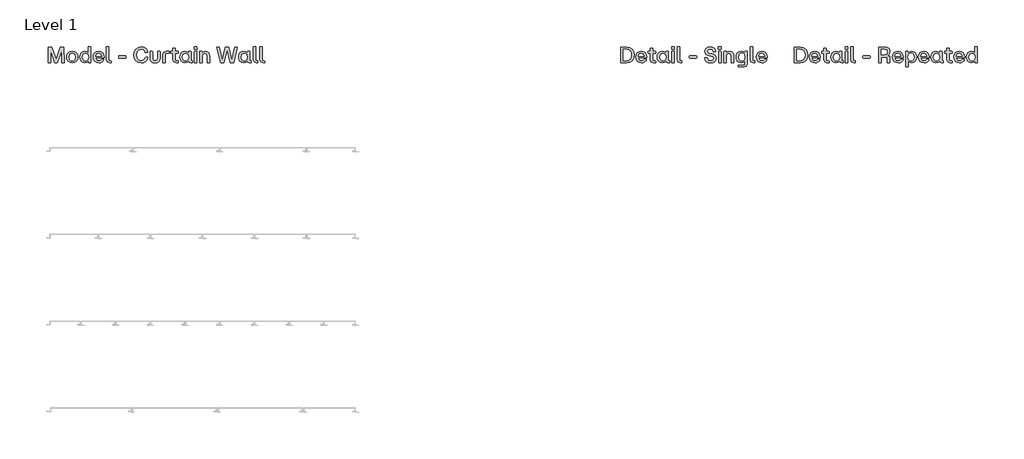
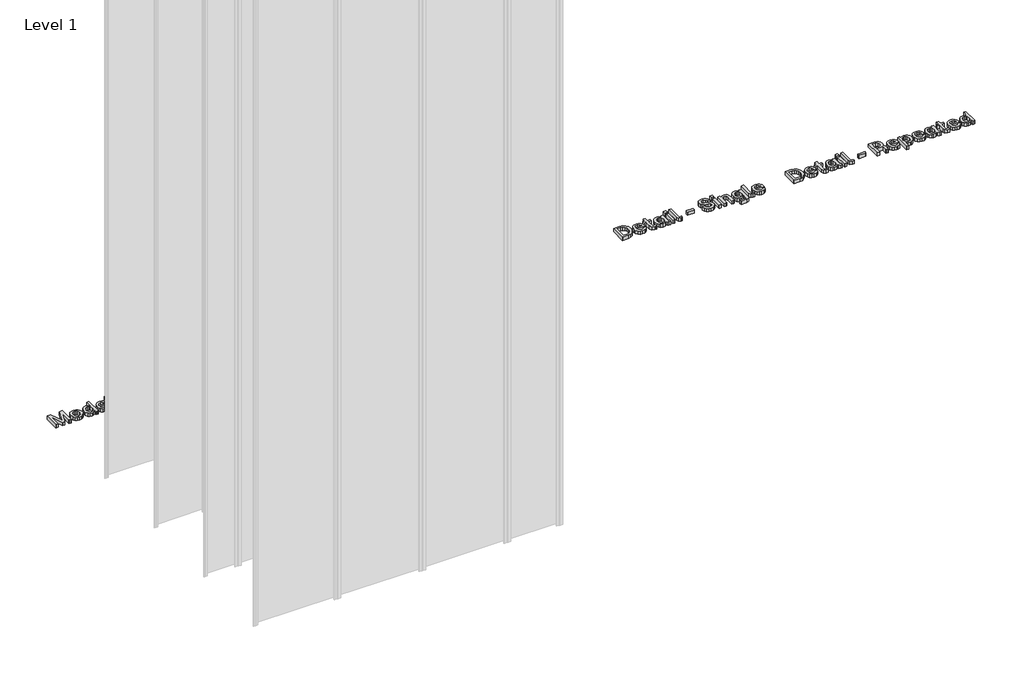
# One storey, part 55 of 64: 3 proxies.
"""IFC4 building model written with IfcOpenShell, lengths in millimetres."""

from ifc_helpers import new_model, si_unit, origin, origin_with_axes, place, context, project, spatial, polyline, outline, extrude, element, save

model = new_model("IFC4")

# Units and contexts
model_context = context("Model", 3, world=origin())
ifc_project = project(units=[si_unit("LENGTHUNIT", "METRE", prefix="MILLI")], contexts=[model_context])

# Site, building, storey
site = spatial("IfcSite", under=ifc_project)
building = spatial("IfcBuilding", under=site)
storey = spatial("IfcBuildingStorey", under=building, Name="Level 1", Elevation=0.0)

# Proxies
placement = place(None, origin())
element("IfcBuildingElementProxy", 1, Name="90mm", ObjectType="90mm", at=placement, inside=storey, context=model_context, shape_type="SweptSolid", body=[
    extrude(outline(polyline([(10.2926176, 6000.0), (8.9872124, 6001.2551973), (8.9872124, 6088.6922388), (28.5682898, 6089.997644), (30.0745265, 6088.9432783), (54.8521205, 6019.5308695), (79.8305461, 6088.9432783), (81.3367829, 6089.997644), (99.8634945, 6089.997644), (101.1688997, 6001.2551973), (99.8634945, 6000.0), (87.9391205, 6000.0), (86.6086114, 6001.2551973), (86.6086114, 6069.788968), (62.2075765, 6001.0041578), (60.7013398, 6000.0), (49.2037328, 6000.0), (47.6974961, 6001.0041578), (23.7985402, 6069.788968), (23.2964613, 6001.2551973), (21.9659522, 6000.0), (10.2926176, 6000.0)])), origin_with_axes(), (0.0, 0.0, 1.0), 20.0),
    extrude(outline(polyline([(148.1383814, 5999.2468816), (134.9117402, 6001.5533066), (124.452809, 6008.4725815), (117.6465018, 6019.1260683), (115.3777327, 6032.6351289), (117.6527778, 6046.2320533), (124.4779129, 6056.9985079), (134.9431201, 6064.0119226), (148.1383814, 6066.3497275), (161.4905423, 6064.0119226), (172.0247853, 6056.9985079), (178.8687484, 6046.2320533), (181.1500695, 6032.6351289), (178.8687484, 6019.1260683), (172.0247853, 6008.4725815), (161.4905423, 6001.5533066), (148.1383814, 5999.2468816)]), holes=[polyline([(129.8878131, 6032.6351289), (134.7454265, 6016.6062598), (140.522472, 6012.2475873), (148.1383814, 6010.7946965), (155.8358786, 6012.2538633), (161.7070638, 6016.6313638), (166.665093, 6032.6351289), (161.7321678, 6048.8271737), (155.8672585, 6053.251744), (148.1383814, 6054.7266008), (140.522472, 6053.251744), (134.7454265, 6048.8271737), (129.8878131, 6032.6351289)])]), origin_with_axes(), (0.0, 0.0, 1.0), 20.0),
    extrude(outline(polyline([(219.9607689, 5999.2468816), (208.011291, 6001.5156507), (198.7730391, 6008.3219579), (192.86106, 6018.9377888), (190.8904003, 6032.6351289), (192.86106, 6046.4674028), (198.7730391, 6057.1867875), (208.011291, 6064.0589925), (219.9607689, 6066.3497275), (231.872591, 6063.4627738), (240.8472515, 6055.555031), (241.4246422, 6091.2528413), (242.6798395, 6092.5833504), (254.353174, 6092.5833504), (255.6585792, 6001.2551973), (254.353174, 6000.0), (243.3074381, 6000.0), (242.0522408, 6001.2551973), (242.0522408, 6009.9160584), (232.4123258, 6002.1338354), (219.9607689, 5999.2468816)]), holes=[polyline([(205.4004807, 6032.6351289), (210.3585099, 6016.6313638), (216.2234191, 6012.2538633), (223.9020884, 6010.7946965), (231.4583759, 6012.2475873), (237.1569715, 6016.6062598), (241.9267211, 6032.6351289), (237.1193156, 6048.8271737), (231.411306, 6053.251744), (223.9020884, 6054.7266008), (216.2234191, 6053.251744), (210.3585099, 6048.8271737), (205.4004807, 6032.6351289)])]), origin_with_axes(), (0.0, 0.0, 1.0), 20.0),
    extrude(outline(polyline([(301.1469281, 5999.2468816), (287.5594177, 6001.5156507), (277.0220367, 6008.3219579), (270.2627994, 6018.9377888), (268.0097203, 6032.6351289), (270.2533854, 6046.4987827), (276.9843807, 6057.2118914), (287.5123478, 6064.0652685), (301.1469281, 6066.3497275), (313.6769348, 6064.0966484), (323.250952, 6057.3374111), (329.3229688, 6046.6870623), (331.3469743, 6032.7606486), (331.3469743, 6029.3214081), (330.0917771, 6027.990899), (282.6453204, 6027.990899), (288.1681884, 6015.3134066), (301.1469281, 6010.7946965), (311.5650654, 6013.0917075), (316.9624137, 6019.5308695), (318.3431307, 6020.5852352), (329.7152179, 6020.5852352), (327.6817983, 6011.2685335), (321.3305002, 6004.8074055), (312.3432877, 6000.6370126), (301.1469281, 5999.2468816)]), holes=[polyline([(282.7708401, 6038.4090363), (317.3389729, 6038.4090363), (312.5817752, 6050.3710663), (301.1469281, 6054.7266008), (288.3815719, 6050.5844498), (282.7708401, 6038.4090363)])]), origin_with_axes(), (0.0, 0.0, 1.0), 20.0),
    extrude(outline(polyline([(362.7771139, 6000.0), (348.9197361, 6004.7697496), (344.1499865, 6018.6522314), (344.1499865, 6091.2528413), (357.1287262, 6092.5833504), (358.3839235, 6091.2528413), (358.3839235, 6011.2967754), (370.3836093, 6011.2967754), (371.6388066, 6010.0415781), (371.6388066, 6001.2551973), (370.3836093, 6000.0), (362.7771139, 6000.0)])), origin_with_axes(), (0.0, 0.0, 1.0), 20.0),
    extrude(outline(polyline([(416.4242451, 6027.112261), (415.1690478, 6028.4427701), (415.1690478, 6038.4090363), (416.4242451, 6039.7395454), (455.034113, 6039.7395454), (456.2893102, 6038.4090363), (456.2893102, 6028.4427701), (455.034113, 6027.112261), (416.4242451, 6027.112261)])), origin_with_axes(), (0.0, 0.0, 1.0), 20.0),
    extrude(outline(polyline([(545.2827964, 5999.2468816), (527.2707156, 6002.3315289), (513.4007858, 6011.5854708), (504.5516451, 6026.1112411), (501.6019315, 6045.011374), (504.5767491, 6063.5945695), (513.5012016, 6078.1736857), (527.3962354, 6087.6064932), (545.2827964, 6090.7507624), (559.231176, 6088.6734109), (570.8009568, 6082.4413564), (579.1197767, 6072.7575095), (583.3152736, 6060.3247806), (570.1357023, 6058.8687518), (568.7047774, 6059.9984293), (560.8409665, 6073.6110437), (545.2827964, 6078.1485818), (533.3584224, 6075.9268826), (524.2958981, 6069.2617852), (518.5721986, 6058.755784), (516.6642987, 6045.011374), (518.5627846, 6031.0535804), (524.2582422, 6020.5601312), (533.3113525, 6013.9891735), (545.2827964, 6011.7988543), (561.1484899, 6016.2736326), (569.5834155, 6029.6979673), (571.0143404, 6030.8778528), (582.9387144, 6030.8778528), (579.7662033, 6017.1208907), (571.3030357, 6007.5311836), (559.5449753, 6001.3179571), (545.2827964, 5999.2468816)])), origin_with_axes(), (0.0, 0.0, 1.0), 20.0),
    extrude(outline(polyline([(625.364382, 5999.2468816), (612.8437893, 6001.0637797), (603.9005087, 6006.5144738), (598.5345404, 6015.598964), (596.7458843, 6028.3172503), (596.7458843, 6064.2661), (598.0010816, 6065.5212973), (609.6744162, 6065.5212973), (610.9798213, 6064.2661), (610.9798213, 6026.2336229), (614.6826533, 6014.7485679), (625.364382, 6010.7946965), (636.2845982, 6014.6544281), (639.9246703, 6026.2336229), (639.9246703, 6064.2661), (641.1798676, 6065.5212973), (652.90341, 6065.5212973), (654.1586073, 6064.2661), (654.1586073, 6028.3172503), (652.3589682, 6015.598964), (646.960051, 6006.5144738), (637.9618556, 6001.0637797), (625.364382, 5999.2468816)])), origin_with_axes(), (0.0, 0.0, 1.0), 20.0),
    extrude(outline(polyline([(670.9280428, 6000.0), (669.6728455, 6001.2551973), (669.6728455, 6046.9443778), (674.4425951, 6060.7892036), (688.2999729, 6065.5212973), (706.5756451, 6065.5212973), (707.8308424, 6064.2661), (707.8308424, 6054.7266008), (706.5756451, 6053.4714035), (683.9067825, 6053.4714035), (683.9067825, 6001.2551973), (682.6515852, 6000.0), (670.9280428, 6000.0)])), origin_with_axes(), (0.0, 0.0, 1.0), 20.0),
    extrude(outline(polyline([(746.0892551, 6000.0), (732.2067733, 6004.7697496), (727.4370237, 6018.6522314), (727.4370237, 6054.2245219), (716.265768, 6054.2245219), (714.9603629, 6064.2661), (716.265768, 6065.5212973), (727.4370237, 6065.5212973), (727.4370237, 6083.54593), (728.692221, 6084.8513352), (740.4408674, 6084.8513352), (741.6960646, 6083.54593), (741.6960646, 6065.5212973), (757.5115502, 6065.5212973), (758.8169553, 6064.2661), (758.8169553, 6055.555031), (741.6960646, 6054.2245219), (741.6960646, 6011.2967754), (757.5115502, 6011.2967754), (758.8169553, 6010.0415781), (758.8169553, 6001.2551973), (757.5115502, 6000.0), (746.0892551, 6000.0)])), origin_with_axes(), (0.0, 0.0, 1.0), 20.0),
    extrude(outline(polyline([(796.7490167, 5999.2468816), (784.7995388, 6001.5156507), (775.5612869, 6008.3219579), (769.6493078, 6018.9377888), (767.678648, 6032.6351289), (769.6493078, 6046.4674028), (775.5612869, 6057.1867875), (784.7995388, 6064.0589925), (796.7490167, 6066.3497275), (808.6608388, 6063.4627738), (817.6354992, 6055.555031), (818.21289, 6064.2661), (819.4680873, 6065.5212973), (831.1414218, 6065.5212973), (832.446827, 6064.2661), (832.446827, 6011.2967754), (839.5512435, 6011.2967754), (840.8064408, 6010.0415781), (840.8064408, 6001.2551973), (839.5512435, 6000.0), (830.0117443, 6000.0), (821.6333025, 6002.3534949), (818.8404886, 6009.4139795), (809.2005736, 6002.1338354), (796.7490167, 5999.2468816)]), holes=[polyline([(782.1887284, 6032.6351289), (787.1467576, 6016.6313638), (793.0116669, 6012.2538633), (800.6903361, 6010.7946965), (808.2466237, 6012.2475873), (813.9452193, 6016.6062598), (818.7149689, 6032.6351289), (813.9075634, 6048.8271737), (808.1995538, 6053.251744), (800.6903361, 6054.7266008), (793.0116669, 6053.251744), (787.1467576, 6048.8271737), (782.1887284, 6032.6351289)])]), origin_with_axes(), (0.0, 0.0, 1.0), 20.0),
    extrude(outline(polyline([(853.1575819, 6000.0), (851.8521767, 6001.2551973), (851.8521767, 6064.2661), (853.1575819, 6065.5212973), (864.8309165, 6065.5212973), (866.0861137, 6064.2661), (866.0861137, 6001.2551973), (864.8309165, 6000.0), (853.1575819, 6000.0)])), origin_with_axes(), (0.0, 0.0, 1.0), 20.0),
    extrude(outline(polyline([(850.8480189, 6078.1485818), (850.8480189, 6092.0059596), (852.1032162, 6093.3364687), (865.960594, 6093.3364687), (867.2911031, 6078.1485818), (865.960594, 6076.8933845), (852.1032162, 6076.8933845), (850.8480189, 6078.1485818)])), origin_with_axes(), (0.0, 0.0, 1.0), 20.0),
    extrude(outline(polyline([(883.6839794, 6000.0), (882.3785742, 6001.2551973), (882.3785742, 6064.2661), (883.6839794, 6065.5212973), (894.7297153, 6065.5212973), (895.9849126, 6064.2661), (895.9849126, 6055.555031), (905.2796484, 6063.6510534), (917.1977464, 6066.3497275), (927.1232188, 6064.4669316), (934.4065009, 6058.8185439), (938.8781412, 6049.5426361), (940.3686879, 6036.7772799), (940.3686879, 6001.2551973), (939.0381788, 6000.0), (927.3648443, 6000.0), (926.0594391, 6001.2551973), (926.0594391, 6036.7772799), (922.5448868, 6050.057267), (911.436391, 6054.2245219), (900.2274794, 6049.9945071), (896.6125112, 6036.7772799), (896.6125112, 6001.2551973), (895.357314, 6000.0), (883.6839794, 6000.0)])), origin_with_axes(), (0.0, 0.0, 1.0), 20.0),
    extrude(outline(polyline([(1003.7561499, 6000.0), (1002.3754329, 6001.1296775), (979.7065703, 6088.5667191), (993.6392599, 6089.997644), (995.0199769, 6088.8177586), (1011.8396203, 6014.3845607), (1030.4918517, 6088.8177586), (1031.9227765, 6089.997644), (1048.3658607, 6089.997644), (1049.8218896, 6088.8177586), (1067.7712105, 6014.3845607), (1085.1431406, 6088.8177586), (1086.5238576, 6089.997644), (1099.2766618, 6089.997644), (1077.8127886, 6001.1296775), (1076.4320716, 6000.0), (1059.9136756, 6000.0), (1058.5329586, 6001.1296775), (1040.4079101, 6073.5043519), (1021.630159, 6001.1296775), (1020.249442, 6000.0), (1003.7561499, 6000.0)])), origin_with_axes(), (0.0, 0.0, 1.0), 20.0),
    extrude(outline(polyline([(1135.7526944, 5999.2468816), (1123.8032164, 6001.5156507), (1114.5649646, 6008.3219579), (1108.6529854, 6018.9377888), (1106.6823257, 6032.6351289), (1108.6529854, 6046.4674028), (1114.5649646, 6057.1867875), (1123.8032164, 6064.0589925), (1135.7526944, 6066.3497275), (1147.6645165, 6063.4627738), (1156.6391769, 6055.555031), (1157.2165677, 6064.2661), (1158.4717649, 6065.5212973), (1170.1450995, 6065.5212973), (1171.4505047, 6064.2661), (1171.4505047, 6011.2967754), (1178.5549212, 6011.2967754), (1179.8101185, 6010.0415781), (1179.8101185, 6001.2551973), (1178.5549212, 6000.0), (1169.015422, 6000.0), (1160.6369802, 6002.3534949), (1157.8441663, 6009.4139795), (1148.2042513, 6002.1338354), (1135.7526944, 5999.2468816)]), holes=[polyline([(1121.1924061, 6032.6351289), (1126.1504353, 6016.6313638), (1132.0153445, 6012.2538633), (1139.6940138, 6010.7946965), (1147.2503014, 6012.2475873), (1152.948897, 6016.6062598), (1157.7186466, 6032.6351289), (1152.911241, 6048.8271737), (1147.2032315, 6053.251744), (1139.6940138, 6054.7266008), (1132.0153445, 6053.251744), (1126.1504353, 6048.8271737), (1121.1924061, 6032.6351289)])]), origin_with_axes(), (0.0, 0.0, 1.0), 20.0),
    extrude(outline(polyline([(1209.4829818, 6000.0), (1195.625604, 6004.7697496), (1190.8558544, 6018.6522314), (1190.8558544, 6091.2528413), (1203.8345941, 6092.5833504), (1205.0897914, 6091.2528413), (1205.0897914, 6011.2967754), (1217.0894773, 6011.2967754), (1218.3446745, 6010.0415781), (1218.3446745, 6001.2551973), (1217.0894773, 6000.0), (1209.4829818, 6000.0)])), origin_with_axes(), (0.0, 0.0, 1.0), 20.0),
    extrude(outline(polyline([(1248.0426418, 6000.0), (1234.185264, 6004.7697496), (1229.4155144, 6018.6522314), (1229.4155144, 6091.2528413), (1242.3942541, 6092.5833504), (1243.6494514, 6091.2528413), (1243.6494514, 6011.2967754), (1255.6491373, 6011.2967754), (1256.9043345, 6010.0415781), (1256.9043345, 6001.2551973), (1255.6491373, 6000.0), (1248.0426418, 6000.0)])), origin_with_axes(), (0.0, 0.0, 1.0), 20.0),
])
element("IfcBuildingElementProxy", 2, Name="90mm", ObjectType="90mm", at=placement, inside=storey, context=model_context, shape_type="SweptSolid", body=[
    extrude(outline(polyline([(3310.2926176, 6000.0), (3308.9872124, 6001.2551973), (3308.9872124, 6088.6922388), (3342.5511873, 6089.997644), (3360.5475781, 6086.9945845), (3374.1193986, 6077.9854062), (3382.63905, 6063.6416394), (3385.4789338, 6044.6348148), (3382.648464, 6025.7974418), (3374.1570545, 6011.7109905), (3360.594648, 6002.9277476), (3342.5511873, 6000.0), (3310.2926176, 6000.0)]), holes=[polyline([(3323.7985402, 6012.6272845), (3341.6725492, 6012.6272845), (3353.8950326, 6014.688946), (3362.9481429, 6020.8739305), (3368.5494607, 6030.9374746), (3370.4165666, 6044.6348148), (3368.5431847, 6058.4890546), (3362.923039, 6068.8224661), (3353.8636527, 6075.2522141), (3341.6725492, 6077.3954634), (3323.7985402, 6077.3954634), (3323.7985402, 6012.6272845)])]), origin_with_axes(), (0.0, 0.0, 1.0), 20.0),
    extrude(outline(polyline([(3427.628458, 5999.2468816), (3414.0409476, 6001.5156507), (3403.5035666, 6008.3219579), (3396.7443293, 6018.9377888), (3394.4912502, 6032.6351289), (3396.7349153, 6046.4987827), (3403.4659107, 6057.2118914), (3413.9938777, 6064.0652685), (3427.628458, 6066.3497275), (3440.1584647, 6064.0966484), (3449.7324819, 6057.3374111), (3455.8044987, 6046.6870623), (3457.8285043, 6032.7606486), (3457.8285043, 6029.3214081), (3456.573307, 6027.990899), (3409.1268503, 6027.990899), (3414.6497183, 6015.3134066), (3427.628458, 6010.7946965), (3438.0465953, 6013.0917075), (3443.4439436, 6019.5308695), (3444.8246606, 6020.5852352), (3456.1967478, 6020.5852352), (3454.1633282, 6011.2685335), (3447.8120301, 6004.8074055), (3438.8248176, 6000.6370126), (3427.628458, 5999.2468816)]), holes=[polyline([(3409.2523701, 6038.4090363), (3443.8205028, 6038.4090363), (3439.0633051, 6050.3710663), (3427.628458, 6054.7266008), (3414.8631018, 6050.5844498), (3409.2523701, 6038.4090363)])]), origin_with_axes(), (0.0, 0.0, 1.0), 20.0),
    extrude(outline(polyline([(3496.6140998, 6000.0), (3482.731618, 6004.7697496), (3477.9618684, 6018.6522314), (3477.9618684, 6054.2245219), (3466.7906127, 6054.2245219), (3465.4852076, 6064.2661), (3466.7906127, 6065.5212973), (3477.9618684, 6065.5212973), (3477.9618684, 6083.54593), (3479.2170657, 6084.8513352), (3490.9657121, 6084.8513352), (3492.2209094, 6083.54593), (3492.2209094, 6065.5212973), (3508.0363949, 6065.5212973), (3509.3418001, 6064.2661), (3509.3418001, 6055.555031), (3492.2209094, 6054.2245219), (3492.2209094, 6011.2967754), (3508.0363949, 6011.2967754), (3509.3418001, 6010.0415781), (3509.3418001, 6001.2551973), (3508.0363949, 6000.0), (3496.6140998, 6000.0)])), origin_with_axes(), (0.0, 0.0, 1.0), 20.0),
    extrude(outline(polyline([(3547.2738615, 5999.2468816), (3535.3243835, 6001.5156507), (3526.0861316, 6008.3219579), (3520.1741525, 6018.9377888), (3518.2034928, 6032.6351289), (3520.1741525, 6046.4674028), (3526.0861316, 6057.1867875), (3535.3243835, 6064.0589925), (3547.2738615, 6066.3497275), (3559.1856835, 6063.4627738), (3568.160344, 6055.555031), (3568.7377347, 6064.2661), (3569.992932, 6065.5212973), (3581.6662665, 6065.5212973), (3582.9716717, 6064.2661), (3582.9716717, 6011.2967754), (3590.0760882, 6011.2967754), (3591.3312855, 6010.0415781), (3591.3312855, 6001.2551973), (3590.0760882, 6000.0), (3580.536589, 6000.0), (3572.1581473, 6002.3534949), (3569.3653333, 6009.4139795), (3559.7254183, 6002.1338354), (3547.2738615, 5999.2468816)]), holes=[polyline([(3532.7135732, 6032.6351289), (3537.6716024, 6016.6313638), (3543.5365116, 6012.2538633), (3551.2151809, 6010.7946965), (3558.7714684, 6012.2475873), (3564.470064, 6016.6062598), (3569.2398136, 6032.6351289), (3564.4324081, 6048.8271737), (3558.7243985, 6053.251744), (3551.2151809, 6054.7266008), (3543.5365116, 6053.251744), (3537.6716024, 6048.8271737), (3532.7135732, 6032.6351289)])]), origin_with_axes(), (0.0, 0.0, 1.0), 20.0),
    extrude(outline(polyline([(3603.6824266, 6000.0), (3602.3770214, 6001.2551973), (3602.3770214, 6064.2661), (3603.6824266, 6065.5212973), (3615.3557612, 6065.5212973), (3616.6109584, 6064.2661), (3616.6109584, 6001.2551973), (3615.3557612, 6000.0), (3603.6824266, 6000.0)])), origin_with_axes(), (0.0, 0.0, 1.0), 20.0),
    extrude(outline(polyline([(3601.3728636, 6078.1485818), (3601.3728636, 6092.0059596), (3602.6280609, 6093.3364687), (3616.4854387, 6093.3364687), (3617.8159478, 6078.1485818), (3616.4854387, 6076.8933845), (3602.6280609, 6076.8933845), (3601.3728636, 6078.1485818)])), origin_with_axes(), (0.0, 0.0, 1.0), 20.0),
    extrude(outline(polyline([(3651.5305464, 6000.0), (3637.6731686, 6004.7697496), (3632.903419, 6018.6522314), (3632.903419, 6091.2528413), (3645.8821587, 6092.5833504), (3647.137356, 6091.2528413), (3647.137356, 6011.2967754), (3659.1370418, 6011.2967754), (3660.3922391, 6010.0415781), (3660.3922391, 6001.2551973), (3659.1370418, 6000.0), (3651.5305464, 6000.0)])), origin_with_axes(), (0.0, 0.0, 1.0), 20.0),
    extrude(outline(polyline([(3705.1776775, 6027.112261), (3703.9224803, 6028.4427701), (3703.9224803, 6038.4090363), (3705.1776775, 6039.7395454), (3743.7875455, 6039.7395454), (3745.0427427, 6038.4090363), (3745.0427427, 6028.4427701), (3743.7875455, 6027.112261), (3705.1776775, 6027.112261)])), origin_with_axes(), (0.0, 0.0, 1.0), 20.0),
    extrude(outline(polyline([(3826.3293177, 5999.2468816), (3812.5598037, 6001.0982976), (3801.8780749, 6006.6525455), (3794.6167588, 6015.627206), (3791.1084824, 6027.7398596), (3804.3633655, 6029.1958884), (3805.6687707, 6027.990899), (3811.8568932, 6015.4389264), (3826.3293177, 6011.5478148), (3838.8436344, 6015.1251271), (3843.3246887, 6025.0537374), (3840.2243514, 6033.3003835), (3829.84387, 6037.4048785), (3817.9697039, 6039.488506), (3806.9647619, 6042.7426049), (3799.104089, 6048.0615033), (3794.3876853, 6055.4452012), (3792.8155507, 6064.8936987), (3794.8301423, 6075.7354651), (3800.8739171, 6083.9099372), (3810.5263841, 6089.0405561), (3823.3670521, 6090.7507624), (3836.1010284, 6089.0185901), (3846.0359148, 6083.8220734), (3852.826532, 6075.4687356), (3856.1277008, 6064.2661), (3842.9481295, 6062.8351751), (3841.5172046, 6064.2661), (3835.7056413, 6074.9729327), (3823.3670521, 6078.3996213), (3811.6058538, 6075.2616281), (3807.5515666, 6066.098688), (3811.1665347, 6057.400171), (3822.4884141, 6052.8438049), (3834.2872684, 6050.7852814), (3845.1070688, 6047.6159083), (3852.4625248, 6042.5260834), (3856.6799876, 6035.1957313), (3858.0858085, 6025.3047769), (3855.9739391, 6014.3908367), (3849.6383309, 6006.1504666), (3839.5873388, 6000.9727779), (3826.3293177, 5999.2468816)])), origin_with_axes(), (0.0, 0.0, 1.0), 20.0),
    extrude(outline(polyline([(3871.2904838, 6078.1485818), (3871.2904838, 6092.0059596), (3872.545681, 6093.3364687), (3886.4030589, 6093.3364687), (3887.733568, 6078.1485818), (3886.4030589, 6076.8933845), (3872.545681, 6076.8933845), (3871.2904838, 6078.1485818)])), origin_with_axes(), (0.0, 0.0, 1.0), 20.0),
    extrude(outline(polyline([(3873.6000467, 6000.0), (3872.2946416, 6001.2551973), (3872.2946416, 6064.2661), (3873.6000467, 6065.5212973), (3885.2733813, 6065.5212973), (3886.5285786, 6064.2661), (3886.5285786, 6001.2551973), (3885.2733813, 6000.0), (3873.6000467, 6000.0)])), origin_with_axes(), (0.0, 0.0, 1.0), 20.0),
    extrude(outline(polyline([(3904.1264443, 6000.0), (3902.8210391, 6001.2551973), (3902.8210391, 6064.2661), (3904.1264443, 6065.5212973), (3915.1721802, 6065.5212973), (3916.4273775, 6064.2661), (3916.4273775, 6055.555031), (3925.7221132, 6063.6510534), (3937.6402113, 6066.3497275), (3947.5656836, 6064.4669316), (3954.8489658, 6058.8185439), (3959.320606, 6049.5426361), (3960.8111528, 6036.7772799), (3960.8111528, 6001.2551973), (3959.4806437, 6000.0), (3947.8073091, 6000.0), (3946.501904, 6001.2551973), (3946.501904, 6036.7772799), (3942.9873516, 6050.057267), (3931.8788558, 6054.2245219), (3920.6699442, 6049.9945071), (3917.0549761, 6036.7772799), (3917.0549761, 6001.2551973), (3915.7997788, 6000.0), (3904.1264443, 6000.0)])), origin_with_axes(), (0.0, 0.0, 1.0), 20.0),
    extrude(outline(polyline([(3986.5175928, 5975.5989651), (3985.1870837, 5976.8541624), (3985.1870837, 5985.6405433), (3986.5175928, 5986.8957405), (4023.4203924, 5986.8957405), (4023.4203924, 6010.0415781), (4013.8683412, 6002.1338354), (4001.9565192, 5999.2468816), (3990.0070412, 6001.5313407), (3980.7687893, 6008.3847177), (3974.8568102, 6019.0789984), (3972.8861505, 6032.8861684), (3974.8568102, 6046.6086125), (3980.7687893, 6057.2495473), (3990.0070412, 6064.0746824), (4001.9565192, 6066.3497275), (4014.4080761, 6063.4627738), (4023.5459122, 6055.6805507), (4024.0479911, 6064.2661), (4025.3031883, 6065.5212973), (4036.3489243, 6065.5212973), (4037.6543294, 6064.2661), (4037.6543294, 5993.5984939), (4033.0100996, 5980.2055391), (4019.6548006, 5975.5989651), (3986.5175928, 5975.5989651)]), holes=[polyline([(3987.3962309, 6032.8861684), (3992.3542601, 6016.6941236), (3998.2191693, 6012.2695533), (4005.8978386, 6010.7946965), (4013.4070562, 6012.2695533), (4019.1150658, 6016.6941236), (4023.9224713, 6032.8861684), (4019.1527217, 6048.9275894), (4013.4541261, 6053.276848), (4005.8978386, 6054.7266008), (3998.2191693, 6053.267434), (3992.3542601, 6048.8899335), (3987.3962309, 6032.8861684)])]), origin_with_axes(), (0.0, 0.0, 1.0), 20.0),
    extrude(outline(polyline([(4072.4735016, 6000.0), (4058.6161238, 6004.7697496), (4053.8463742, 6018.6522314), (4053.8463742, 6091.2528413), (4066.8251139, 6092.5833504), (4068.0803112, 6091.2528413), (4068.0803112, 6011.2967754), (4080.079997, 6011.2967754), (4081.3351943, 6010.0415781), (4081.3351943, 6001.2551973), (4080.079997, 6000.0), (4072.4735016, 6000.0)])), origin_with_axes(), (0.0, 0.0, 1.0), 20.0),
    extrude(outline(polyline([(4121.7023384, 5999.2468816), (4108.114828, 6001.5156507), (4097.5774469, 6008.3219579), (4090.8182097, 6018.9377888), (4088.5651306, 6032.6351289), (4090.8087957, 6046.4987827), (4097.539791, 6057.2118914), (4108.0677581, 6064.0652685), (4121.7023384, 6066.3497275), (4134.2323451, 6064.0966484), (4143.8063622, 6057.3374111), (4149.878379, 6046.6870623), (4151.9023846, 6032.7606486), (4151.9023846, 6029.3214081), (4150.6471873, 6027.990899), (4103.2007307, 6027.990899), (4108.7235987, 6015.3134066), (4121.7023384, 6010.7946965), (4132.1204757, 6013.0917075), (4137.5178239, 6019.5308695), (4138.8985409, 6020.5852352), (4150.2706282, 6020.5852352), (4148.2372086, 6011.2685335), (4141.8859104, 6004.8074055), (4132.898698, 6000.6370126), (4121.7023384, 5999.2468816)]), holes=[polyline([(4103.3262504, 6038.4090363), (4137.8943831, 6038.4090363), (4133.1371855, 6050.3710663), (4121.7023384, 6054.7266008), (4108.9369822, 6050.5844498), (4103.3262504, 6038.4090363)])]), origin_with_axes(), (0.0, 0.0, 1.0), 20.0),
])
element("IfcBuildingElementProxy", 3, Name="90mm", ObjectType="90mm", at=placement, inside=storey, context=model_context, shape_type="SweptSolid", body=[
    extrude(outline(polyline([(4310.2926176, 6000.0), (4308.9872124, 6001.2551973), (4308.9872124, 6088.6922388), (4342.5511873, 6089.997644), (4360.5475781, 6086.9945845), (4374.1193986, 6077.9854062), (4382.63905, 6063.6416394), (4385.4789338, 6044.6348148), (4382.648464, 6025.7974418), (4374.1570545, 6011.7109905), (4360.594648, 6002.9277476), (4342.5511873, 6000.0), (4310.2926176, 6000.0)]), holes=[polyline([(4323.7985402, 6012.6272845), (4341.6725492, 6012.6272845), (4353.8950326, 6014.688946), (4362.9481429, 6020.8739305), (4368.5494607, 6030.9374746), (4370.4165666, 6044.6348148), (4368.5431847, 6058.4890546), (4362.923039, 6068.8224661), (4353.8636527, 6075.2522141), (4341.6725492, 6077.3954634), (4323.7985402, 6077.3954634), (4323.7985402, 6012.6272845)])]), origin_with_axes(), (0.0, 0.0, 1.0), 20.0),
    extrude(outline(polyline([(4427.628458, 5999.2468816), (4414.0409476, 6001.5156507), (4403.5035666, 6008.3219579), (4396.7443293, 6018.9377888), (4394.4912502, 6032.6351289), (4396.7349153, 6046.4987827), (4403.4659107, 6057.2118914), (4413.9938777, 6064.0652685), (4427.628458, 6066.3497275), (4440.1584647, 6064.0966484), (4449.7324819, 6057.3374111), (4455.8044987, 6046.6870623), (4457.8285043, 6032.7606486), (4457.8285043, 6029.3214081), (4456.573307, 6027.990899), (4409.1268503, 6027.990899), (4414.6497183, 6015.3134066), (4427.628458, 6010.7946965), (4438.0465953, 6013.0917075), (4443.4439436, 6019.5308695), (4444.8246606, 6020.5852352), (4456.1967478, 6020.5852352), (4454.1633282, 6011.2685335), (4447.8120301, 6004.8074055), (4438.8248176, 6000.6370126), (4427.628458, 5999.2468816)]), holes=[polyline([(4409.2523701, 6038.4090363), (4443.8205028, 6038.4090363), (4439.0633051, 6050.3710663), (4427.628458, 6054.7266008), (4414.8631018, 6050.5844498), (4409.2523701, 6038.4090363)])]), origin_with_axes(), (0.0, 0.0, 1.0), 20.0),
    extrude(outline(polyline([(4496.6140998, 6000.0), (4482.731618, 6004.7697496), (4477.9618684, 6018.6522314), (4477.9618684, 6054.2245219), (4466.7906127, 6054.2245219), (4465.4852076, 6064.2661), (4466.7906127, 6065.5212973), (4477.9618684, 6065.5212973), (4477.9618684, 6083.54593), (4479.2170657, 6084.8513352), (4490.9657121, 6084.8513352), (4492.2209094, 6083.54593), (4492.2209094, 6065.5212973), (4508.0363949, 6065.5212973), (4509.3418001, 6064.2661), (4509.3418001, 6055.555031), (4492.2209094, 6054.2245219), (4492.2209094, 6011.2967754), (4508.0363949, 6011.2967754), (4509.3418001, 6010.0415781), (4509.3418001, 6001.2551973), (4508.0363949, 6000.0), (4496.6140998, 6000.0)])), origin_with_axes(), (0.0, 0.0, 1.0), 20.0),
    extrude(outline(polyline([(4547.2738615, 5999.2468816), (4535.3243835, 6001.5156507), (4526.0861316, 6008.3219579), (4520.1741525, 6018.9377888), (4518.2034928, 6032.6351289), (4520.1741525, 6046.4674028), (4526.0861316, 6057.1867875), (4535.3243835, 6064.0589925), (4547.2738615, 6066.3497275), (4559.1856835, 6063.4627738), (4568.160344, 6055.555031), (4568.7377347, 6064.2661), (4569.992932, 6065.5212973), (4581.6662665, 6065.5212973), (4582.9716717, 6064.2661), (4582.9716717, 6011.2967754), (4590.0760882, 6011.2967754), (4591.3312855, 6010.0415781), (4591.3312855, 6001.2551973), (4590.0760882, 6000.0), (4580.536589, 6000.0), (4572.1581473, 6002.3534949), (4569.3653333, 6009.4139795), (4559.7254183, 6002.1338354), (4547.2738615, 5999.2468816)]), holes=[polyline([(4532.7135732, 6032.6351289), (4537.6716024, 6016.6313638), (4543.5365116, 6012.2538633), (4551.2151809, 6010.7946965), (4558.7714684, 6012.2475873), (4564.470064, 6016.6062598), (4569.2398136, 6032.6351289), (4564.4324081, 6048.8271737), (4558.7243985, 6053.251744), (4551.2151809, 6054.7266008), (4543.5365116, 6053.251744), (4537.6716024, 6048.8271737), (4532.7135732, 6032.6351289)])]), origin_with_axes(), (0.0, 0.0, 1.0), 20.0),
    extrude(outline(polyline([(4603.6824266, 6000.0), (4602.3770214, 6001.2551973), (4602.3770214, 6064.2661), (4603.6824266, 6065.5212973), (4615.3557612, 6065.5212973), (4616.6109584, 6064.2661), (4616.6109584, 6001.2551973), (4615.3557612, 6000.0), (4603.6824266, 6000.0)])), origin_with_axes(), (0.0, 0.0, 1.0), 20.0),
    extrude(outline(polyline([(4601.3728636, 6078.1485818), (4601.3728636, 6092.0059596), (4602.6280609, 6093.3364687), (4616.4854387, 6093.3364687), (4617.8159478, 6078.1485818), (4616.4854387, 6076.8933845), (4602.6280609, 6076.8933845), (4601.3728636, 6078.1485818)])), origin_with_axes(), (0.0, 0.0, 1.0), 20.0),
    extrude(outline(polyline([(4651.5305464, 6000.0), (4637.6731686, 6004.7697496), (4632.903419, 6018.6522314), (4632.903419, 6091.2528413), (4645.8821587, 6092.5833504), (4647.137356, 6091.2528413), (4647.137356, 6011.2967754), (4659.1370418, 6011.2967754), (4660.3922391, 6010.0415781), (4660.3922391, 6001.2551973), (4659.1370418, 6000.0), (4651.5305464, 6000.0)])), origin_with_axes(), (0.0, 0.0, 1.0), 20.0),
    extrude(outline(polyline([(4705.1776775, 6027.112261), (4703.9224803, 6028.4427701), (4703.9224803, 6038.4090363), (4705.1776775, 6039.7395454), (4743.7875455, 6039.7395454), (4745.0427427, 6038.4090363), (4745.0427427, 6028.4427701), (4743.7875455, 6027.112261), (4705.1776775, 6027.112261)])), origin_with_axes(), (0.0, 0.0, 1.0), 20.0),
    extrude(outline(polyline([(4795.5016728, 6000.0), (4794.1962677, 6001.2551973), (4794.1962677, 6088.6922388), (4828.011282, 6089.997644), (4841.802762, 6088.2560578), (4851.7972702, 6083.0312992), (4857.869287, 6074.4363359), (4859.8932926, 6062.5841357), (4856.9184751, 6048.8397256), (4848.219958, 6040.3671441), (4857.4833138, 6037.5429502), (4859.8932926, 6029.823487), (4859.8932926, 6001.2551973), (4858.5878874, 6000.0), (4846.4124739, 6000.0), (4845.0819648, 6001.2551973), (4845.0819648, 6032.6351289), (4809.0075954, 6032.6351289), (4809.0075954, 6001.2551973), (4807.6770863, 6000.0), (4795.5016728, 6000.0)]), holes=[polyline([(4809.0075954, 6045.2624134), (4828.011282, 6045.2624134), (4840.7891902, 6049.2162848), (4844.9564451, 6061.3289384), (4840.7891902, 6073.441592), (4828.011282, 6077.3954634), (4809.0075954, 6077.3954634), (4809.0075954, 6045.2624134)])]), origin_with_axes(), (0.0, 0.0, 1.0), 20.0),
    extrude(outline(polyline([(4906.4109033, 5999.2468816), (4892.8233929, 6001.5156507), (4882.2860118, 6008.3219579), (4875.5267745, 6018.9377888), (4873.2736954, 6032.6351289), (4875.5173606, 6046.4987827), (4882.2483559, 6057.2118914), (4892.776323, 6064.0652685), (4906.4109033, 6066.3497275), (4918.94091, 6064.0966484), (4928.5149271, 6057.3374111), (4934.5869439, 6046.6870623), (4936.6109495, 6032.7606486), (4936.6109495, 6029.3214081), (4935.3557522, 6027.990899), (4887.9092956, 6027.990899), (4893.4321635, 6015.3134066), (4906.4109033, 6010.7946965), (4916.8290406, 6013.0917075), (4922.2263888, 6019.5308695), (4923.6071058, 6020.5852352), (4934.9791931, 6020.5852352), (4932.9457735, 6011.2685335), (4926.5944753, 6004.8074055), (4917.6072629, 6000.6370126), (4906.4109033, 5999.2468816)]), holes=[polyline([(4888.0348153, 6038.4090363), (4922.602948, 6038.4090363), (4917.8457504, 6050.3710663), (4906.4109033, 6054.7266008), (4893.6455471, 6050.5844498), (4888.0348153, 6038.4090363)])]), origin_with_axes(), (0.0, 0.0, 1.0), 20.0),
    extrude(outline(polyline([(4950.7193668, 5975.5989651), (4949.4139616, 5976.8541624), (4949.4139616, 6064.2661), (4950.7193668, 6065.5212973), (4961.7651027, 6065.5212973), (4963.0203, 6064.2661), (4963.0203, 6055.6805507), (4972.660215, 6063.4627738), (4985.1117719, 6066.3497275), (4997.0612498, 6064.0746824), (5006.2995017, 6057.2495473), (5012.2114809, 6046.6086125), (5014.1821406, 6032.8861684), (5012.2114809, 6019.0789984), (5006.2995017, 6008.3847177), (4997.0612498, 6001.5313407), (4985.1117719, 5999.2468816), (4973.1999498, 6002.1338354), (4964.2252894, 6010.0415781), (4963.6478986, 5976.8541624), (4962.3927014, 5975.5989651), (4950.7193668, 5975.5989651)]), holes=[polyline([(4963.1458197, 6032.8861684), (4967.9532252, 6016.6941236), (4973.6612348, 6012.2695533), (4981.1704525, 6010.7946965), (4988.8491217, 6012.2695533), (4994.714031, 6016.6941236), (4999.6720602, 6032.8861684), (4994.714031, 6048.8899335), (4988.8491217, 6053.267434), (4981.1704525, 6054.7266008), (4973.6141649, 6053.276848), (4967.9155693, 6048.9275894), (4963.1458197, 6032.8861684)])]), origin_with_axes(), (0.0, 0.0, 1.0), 20.0),
    extrude(outline(polyline([(5055.8295859, 5999.2468816), (5042.2420754, 6001.5156507), (5031.7046944, 6008.3219579), (5024.9454571, 6018.9377888), (5022.692378, 6032.6351289), (5024.9360431, 6046.4987827), (5031.6670385, 6057.2118914), (5042.1950055, 6064.0652685), (5055.8295859, 6066.3497275), (5068.3595926, 6064.0966484), (5077.9336097, 6057.3374111), (5084.0056265, 6046.6870623), (5086.0296321, 6032.7606486), (5086.0296321, 6029.3214081), (5084.7744348, 6027.990899), (5037.3279781, 6027.990899), (5042.8508461, 6015.3134066), (5055.8295859, 6010.7946965), (5066.2477232, 6013.0917075), (5071.6450714, 6019.5308695), (5073.0257884, 6020.5852352), (5084.3978756, 6020.5852352), (5082.3644561, 6011.2685335), (5076.0131579, 6004.8074055), (5067.0259455, 6000.6370126), (5055.8295859, 5999.2468816)]), holes=[polyline([(5037.4534979, 6038.4090363), (5072.0216306, 6038.4090363), (5067.2644329, 6050.3710663), (5055.8295859, 6054.7266008), (5043.0642297, 6050.5844498), (5037.4534979, 6038.4090363)])]), origin_with_axes(), (0.0, 0.0, 1.0), 20.0),
    extrude(outline(polyline([(5124.0621092, 5999.2468816), (5112.1126313, 6001.5156507), (5102.8743794, 6008.3219579), (5096.9624003, 6018.9377888), (5094.9917406, 6032.6351289), (5096.9624003, 6046.4674028), (5102.8743794, 6057.1867875), (5112.1126313, 6064.0589925), (5124.0621092, 6066.3497275), (5135.9739313, 6063.4627738), (5144.9485918, 6055.555031), (5145.5259825, 6064.2661), (5146.7811798, 6065.5212973), (5158.4545143, 6065.5212973), (5159.7599195, 6064.2661), (5159.7599195, 6011.2967754), (5166.864336, 6011.2967754), (5168.1195333, 6010.0415781), (5168.1195333, 6001.2551973), (5166.864336, 6000.0), (5157.3248368, 6000.0), (5148.9463951, 6002.3534949), (5146.1535811, 6009.4139795), (5136.5136661, 6002.1338354), (5124.0621092, 5999.2468816)]), holes=[polyline([(5109.501821, 6032.6351289), (5114.4598502, 6016.6313638), (5120.3247594, 6012.2538633), (5128.0034287, 6010.7946965), (5135.5597162, 6012.2475873), (5141.2583118, 6016.6062598), (5146.0280614, 6032.6351289), (5141.2206559, 6048.8271737), (5135.5126463, 6053.251744), (5128.0034287, 6054.7266008), (5120.3247594, 6053.251744), (5114.4598502, 6048.8271737), (5109.501821, 6032.6351289)])]), origin_with_axes(), (0.0, 0.0, 1.0), 20.0),
    extrude(outline(polyline([(5205.1478526, 6000.0), (5191.2653709, 6004.7697496), (5186.4956213, 6018.6522314), (5186.4956213, 6054.2245219), (5175.3243656, 6054.2245219), (5174.0189604, 6064.2661), (5175.3243656, 6065.5212973), (5186.4956213, 6065.5212973), (5186.4956213, 6083.54593), (5187.7508185, 6084.8513352), (5199.4994649, 6084.8513352), (5200.7546622, 6083.54593), (5200.7546622, 6065.5212973), (5216.5701478, 6065.5212973), (5217.8755529, 6064.2661), (5217.8755529, 6055.555031), (5200.7546622, 6054.2245219), (5200.7546622, 6011.2967754), (5216.5701478, 6011.2967754), (5217.8755529, 6010.0415781), (5217.8755529, 6001.2551973), (5216.5701478, 6000.0), (5205.1478526, 6000.0)])), origin_with_axes(), (0.0, 0.0, 1.0), 20.0),
    extrude(outline(polyline([(5259.8744535, 5999.2468816), (5246.286943, 6001.5156507), (5235.749562, 6008.3219579), (5228.9903247, 6018.9377888), (5226.7372456, 6032.6351289), (5228.9809107, 6046.4987827), (5235.7119061, 6057.2118914), (5246.2398732, 6064.0652685), (5259.8744535, 6066.3497275), (5272.4044602, 6064.0966484), (5281.9784773, 6057.3374111), (5288.0504941, 6046.6870623), (5290.0744997, 6032.7606486), (5290.0744997, 6029.3214081), (5288.8193024, 6027.990899), (5241.3728458, 6027.990899), (5246.8957137, 6015.3134066), (5259.8744535, 6010.7946965), (5270.2925908, 6013.0917075), (5275.689939, 6019.5308695), (5277.070656, 6020.5852352), (5288.4427432, 6020.5852352), (5286.4093237, 6011.2685335), (5280.0580255, 6004.8074055), (5271.0708131, 6000.6370126), (5259.8744535, 5999.2468816)]), holes=[polyline([(5241.4983655, 6038.4090363), (5276.0664982, 6038.4090363), (5271.3093006, 6050.3710663), (5259.8744535, 6054.7266008), (5247.1090973, 6050.5844498), (5241.4983655, 6038.4090363)])]), origin_with_axes(), (0.0, 0.0, 1.0), 20.0),
    extrude(outline(polyline([(5328.1069769, 5999.2468816), (5316.1574989, 6001.5156507), (5306.919247, 6008.3219579), (5301.0072679, 6018.9377888), (5299.0366082, 6032.6351289), (5301.0072679, 6046.4674028), (5306.919247, 6057.1867875), (5316.1574989, 6064.0589925), (5328.1069769, 6066.3497275), (5340.0187989, 6063.4627738), (5348.9934594, 6055.555031), (5349.5708501, 6091.2528413), (5350.8260474, 6092.5833504), (5362.4993819, 6092.5833504), (5363.8047871, 6001.2551973), (5362.4993819, 6000.0), (5351.453646, 6000.0), (5350.1984487, 6001.2551973), (5350.1984487, 6009.9160584), (5340.5585337, 6002.1338354), (5328.1069769, 5999.2468816)]), holes=[polyline([(5313.5466886, 6032.6351289), (5318.5047178, 6016.6313638), (5324.369627, 6012.2538633), (5332.0482963, 6010.7946965), (5339.6045838, 6012.2475873), (5345.3031794, 6016.6062598), (5350.072929, 6032.6351289), (5345.2655235, 6048.8271737), (5339.5575139, 6053.251744), (5332.0482963, 6054.7266008), (5324.369627, 6053.251744), (5318.5047178, 6048.8271737), (5313.5466886, 6032.6351289)])]), origin_with_axes(), (0.0, 0.0, 1.0), 20.0),
])

save(model, "model.ifc")
